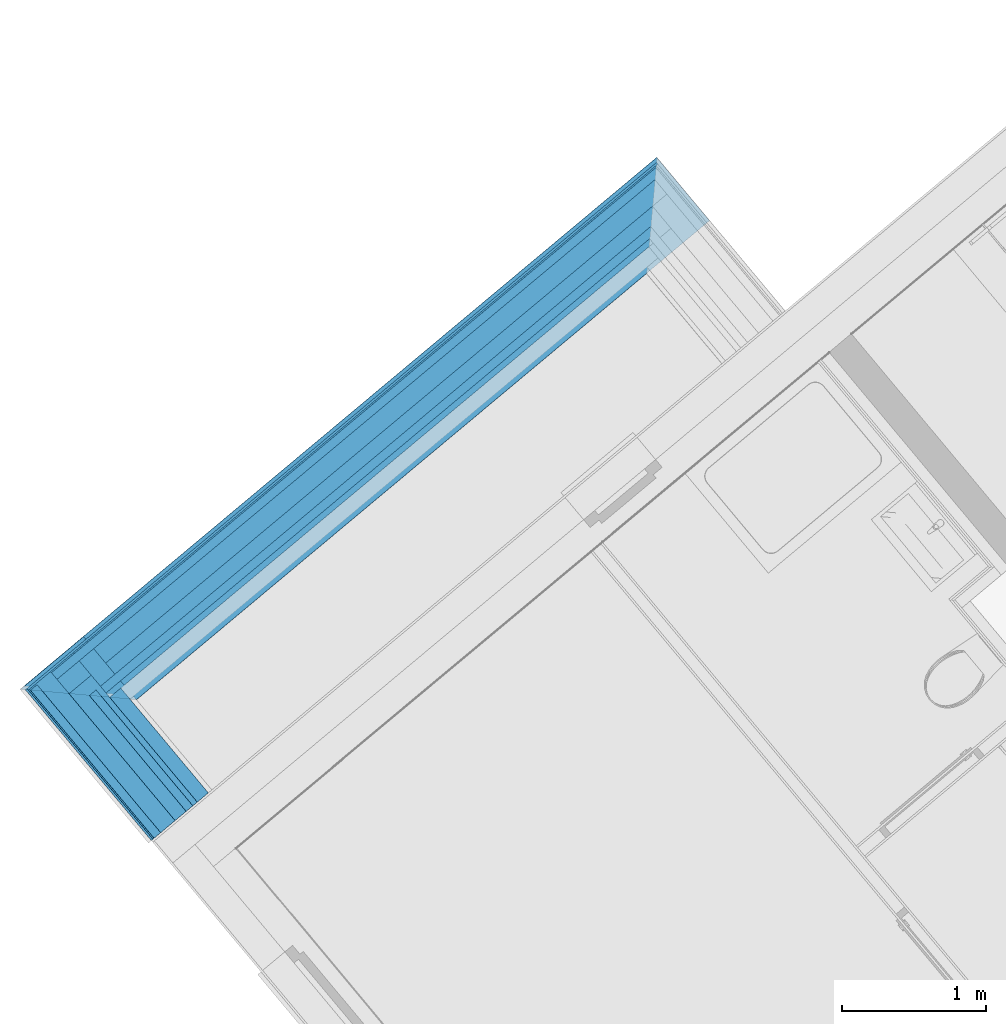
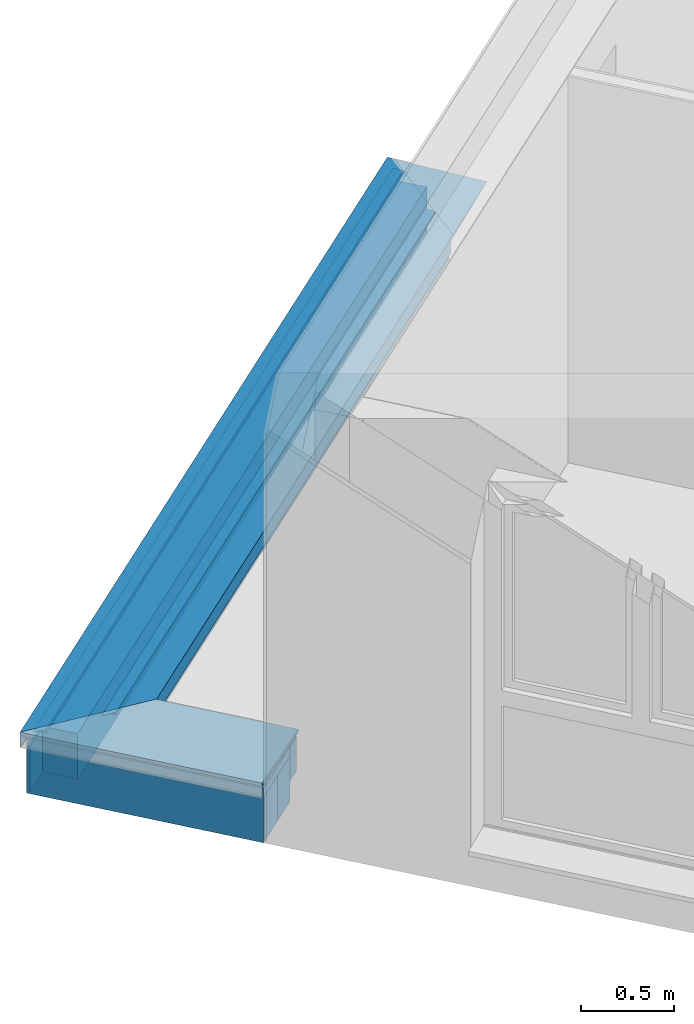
# One storey, part 25 of 61: 15 building element parts, 2 elements without a shape of their own.
"""IFC4 building model written with IfcOpenShell, lengths in metres."""

from ifc_helpers import new_model, entity, si_unit, converted_unit, derived_unit, direction, frame, origin_with_axes, place, context, subcontext, project, spatial, polygons, material, type_object, element, aggregate, save


model = new_model("IFC4")

# Units and contexts
model_context = context("Model", 3, precision=1e-05, world=origin_with_axes(), true_north=direction((0.0, 1.0)))
body_context = subcontext(model_context, "Body", "Model", "MODEL_VIEW")
ifc_project = project(units=[si_unit("LENGTHUNIT", "METRE"), si_unit("AREAUNIT", "SQUARE_METRE"), si_unit("VOLUMEUNIT", "CUBIC_METRE"), converted_unit("PLANEANGLEUNIT", "DEGREE", entity("IfcPlaneAngleMeasure", 0.0174532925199), si_unit("PLANEANGLEUNIT", "RADIAN"), dimensions=[0, 0, 0, 0, 0, 0, 0]), converted_unit("TIMEUNIT", "Year", entity("IfcTimeMeasure", 31556926.0), si_unit("TIMEUNIT", "SECOND"), dimensions=[0, 0, 1, 0, 0, 0, 0]), si_unit("MASSUNIT", "GRAM", prefix="KILO"), si_unit("THERMODYNAMICTEMPERATUREUNIT", "DEGREE_CELSIUS"), si_unit("LUMINOUSINTENSITYUNIT", "LUMEN"), si_unit("ENERGYUNIT", "JOULE", prefix="MEGA"), derived_unit("THERMALCONDUCTANCEUNIT", [(si_unit("POWERUNIT", "WATT"), 1), (si_unit("LENGTHUNIT", "METRE"), -1), (si_unit("THERMODYNAMICTEMPERATUREUNIT", "KELVIN"), -1)]), derived_unit("SPECIFICHEATCAPACITYUNIT", [(si_unit("ENERGYUNIT", "JOULE"), 1), (si_unit("MASSUNIT", "GRAM", prefix="KILO"), -1), (si_unit("THERMODYNAMICTEMPERATUREUNIT", "KELVIN"), -1)]), derived_unit("MASSDENSITYUNIT", [(si_unit("MASSUNIT", "GRAM", prefix="KILO"), 1), (si_unit("VOLUMEUNIT", "CUBIC_METRE"), -1)])], contexts=[model_context])

# Site, building, storey
site_placement = place(None, frame((-0.00153261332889, -0.00661245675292, 0.0), z_axis=(0.0, 0.0, 1.0), x_axis=(1.0, 0.0, 0.0)))
site = spatial("IfcSite", under=ifc_project, at=site_placement, Name="Gelände", CompositionType="ELEMENT")
building_placement = place(site_placement, origin_with_axes())
building = spatial("IfcBuilding", under=site, at=building_placement, Name="Gebäude", CompositionType="ELEMENT")
storey_placement = place(building_placement, frame((0.0, 0.0, 5.7), z_axis=(0.0, 0.0, 1.0), x_axis=(1.0, 0.0, 0.0)))
storey = spatial("IfcBuildingStorey", under=building, at=storey_placement, Name="DG1", CompositionType="ELEMENT", Elevation=5.7)

# Wall, building element parts
wall_type = type_object("IfcWallType", Name="Bauteil - Attika Terrasse 1.DG 574 x 410", PredefinedType="NOTDEFINED")
wall_1_placement = place(storey_placement, frame((-9.25321199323, 20.0359436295, -0.2), z_axis=(0.0, 0.0, 1.0), x_axis=(0.641209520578, -0.767365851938, 0.0)))
wall_1 = element("IfcWall", 1, at=wall_1_placement, inside=storey, type_object=wall_type, Name="Wand-004", PredefinedType="NOTDEFINED")
ifc_material_1 = material(Name="Holzwerkstoff")
building_element_part_1_placement = place(wall_1_placement, origin_with_axes())
building_element_part_1 = element("IfcBuildingElementPart", 2, at=building_element_part_1_placement, material=ifc_material_1, Name="Holzwerkstoff", PredefinedType="NOTDEFINED", context=body_context, shape_type="Tessellation", body=[
    polygons([(-0.240000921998, -0.239999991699, 0.587852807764), (-0.189985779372, -0.189984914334, 0.586106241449), (1.14646030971, -0.189984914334, 0.586106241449), (1.14646030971, -0.239999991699, 0.587852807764), (-0.239998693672, 0.33069508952, 0.587852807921), (-0.18998374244, 0.330634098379, 0.58610624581), (-0.130125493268, -0.130124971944, 0.58401588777), (1.14646030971, -0.130124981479, 0.584015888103), (1.14646030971, 0.100000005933, 0.575979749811), (1.14646030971, 0.160110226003, 0.573880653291), (1.14646030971, 0.329999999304, 0.567947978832), (1.14646030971, 0.330698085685, 0.587938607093), (1.14646030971, -0.239276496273, 0.608570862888), (-0.239997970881, -0.239997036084, 0.587937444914), (-0.23927742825, -0.239276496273, 0.608570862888), (-0.239995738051, 0.330698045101, 0.587937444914), (0.330001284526, 0.329999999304, 0.567947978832), (0.160111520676, 0.330207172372, 0.573880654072), (0.100001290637, 0.330280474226, 0.575979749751), (-0.130123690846, 0.33056110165, 0.58401588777), (0.100000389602, 0.100000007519, 0.575979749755), (0.16011085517, 0.160110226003, 0.573880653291)], [[[1, 2, 3, 4]], [[2, 1, 5, 6]], [[2, 7, 8, 3]], [[8, 9, 10, 11, 12, 13, 4, 3]], [[14, 1, 4, 13, 15]], [[1, 14, 16, 5]], [[17, 18, 19, 20, 6, 5, 16, 12, 11]], [[7, 2, 6, 20]], [[7, 21, 9, 8]], [[21, 22, 10, 9]], [[22, 17, 11, 10]], [[16, 15, 13, 12]], [[14, 15, 16]], [[18, 17, 22]], [[22, 21, 19, 18]], [[21, 7, 20, 19]]], closed=True),
])
ifc_material_2 = material(Name="EPS 1")
building_element_part_2_placement = place(wall_1_placement, origin_with_axes())
building_element_part_2 = element("IfcBuildingElementPart", 3, at=building_element_part_2_placement, material=ifc_material_2, Name="EPS 1", PredefinedType="NOTDEFINED", context=body_context, shape_type="Tessellation", body=[
    polygons([(0.200001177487, 0.3, 0.519224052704), (0.200001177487, 0.3, 0.559999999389), (1.14646030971, 0.3, 0.560000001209), (1.14646030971, 0.3, 0.335), (0.200001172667, 0.3, 0.335), (0.200001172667, 0.3, 0.488695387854), (0.200001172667, 0.3, 0.49100648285), (0.200001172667, 0.3, 0.498822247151), (0.200001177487, 0.3, 0.500000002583), (0.200001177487, 0.3, 0.50905023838), (0.200001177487, 0.3, 0.511361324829), (0.200000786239, 0.2, 0.559999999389), (0.200000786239, 0.2, 0.519224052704), (1.14646030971, 0.2, 0.560000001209), (1.14646030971, 0.2, 0.335), (0.20000078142, 0.2, 0.335), (0.20000078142, 0.2, 0.488695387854), (0.20000078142, 0.2, 0.49100648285), (0.20000078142, 0.2, 0.498822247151), (0.200000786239, 0.2, 0.500000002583), (0.200000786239, 0.2, 0.50905023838), (0.200000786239, 0.2, 0.511361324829)], [[[1, 2, 3, 4, 5, 6, 7, 8, 9, 10, 11]], [[12, 2, 1, 13]], [[2, 12, 14, 3]], [[15, 4, 3, 14]], [[16, 5, 4, 15]], [[17, 6, 5, 16]], [[18, 7, 6, 17]], [[19, 8, 7, 18]], [[20, 9, 8, 19]], [[21, 10, 9, 20]], [[22, 11, 10, 21]], [[13, 1, 11, 22]], [[12, 13, 22, 21, 20, 19, 18, 17, 16, 15, 14]]], closed=True),
])
ifc_material_3 = material(Name="Vollholz")
building_element_part_3_placement = place(wall_1_placement, origin_with_axes())
building_element_part_3 = element("IfcBuildingElementPart", 4, at=building_element_part_3_placement, material=ifc_material_3, Name="Vollholz", PredefinedType="NOTDEFINED", context=body_context, shape_type="Tessellation", body=[
    polygons([(0.10000038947, 0.1, 0.573880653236), (0.10000062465, 0.160110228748, 0.573880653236), (0.100000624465, 0.160063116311, 0.567947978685), (0.10000038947, 0.1, 0.567947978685), (0.10000038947, 0.1, 0.575979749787), (1.14646030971, 0.160110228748, 0.573880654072), (1.14646030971, 0.16, 0.560000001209), (0.100000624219, 0.16, 0.559999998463), (0.10000038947, 0.1, 0.559999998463), (1.14646030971, 0.1, 0.560000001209), (1.14646030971, 0.1, 0.575979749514)], [[[1, 2, 3, 4]], [[5, 2, 1]], [[3, 2, 6, 7, 8]], [[4, 3, 8, 9]], [[5, 1, 4, 9, 10, 11]], [[2, 5, 11, 6]], [[7, 6, 11, 10]], [[9, 8, 7, 10]]], closed=True),
])
ifc_material_4 = material(Name="Stahlbeton")
building_element_part_4_placement = place(wall_1_placement, origin_with_axes())
building_element_part_4 = element("IfcBuildingElementPart", 5, at=building_element_part_4_placement, material=ifc_material_4, Name="Stahlbeton", PredefinedType="NOTDEFINED", context=body_context, shape_type="Tessellation", body=[
    polygons([(7.82254769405e-07, 0.199999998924, 0.498822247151), (7.82254769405e-07, 0.199999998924, 0.499999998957), (1.14646030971, 0.199999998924, 0.500000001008), (1.14646030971, 0.199999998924, 0.335000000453), (7.82254769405e-07, 0.199999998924, 0.335), (7.82254769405e-07, 0.199999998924, 0.488695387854), (7.82254769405e-07, 0.199999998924, 0.49100648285), (-2.39900543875e-10, 1.82835524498e-09, 0.499999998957), (-2.39900543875e-10, 1.82835524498e-09, 0.498822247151), (1.14646030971, 1.82835346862e-09, 0.500000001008), (1.14646030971, 0.199999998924, 0.2), (1.14646030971, 1.82835346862e-09, 0.2), (7.82254772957e-07, 0.199999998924, 0.2), (-2.39900543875e-10, 1.82835524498e-09, 0.488695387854), (-2.39900543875e-10, 1.82835524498e-09, 0.335), (-2.39900543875e-10, 1.82835524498e-09, 0.49100648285), (-2.39900543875e-10, 1.82835524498e-09, 0.2)], [[[1, 2, 3, 4, 5, 6, 7]], [[8, 2, 1, 9]], [[2, 8, 10, 3]], [[11, 4, 3, 10, 12]], [[13, 5, 4, 11]], [[14, 6, 5, 15]], [[16, 7, 6, 14]], [[9, 1, 7, 16]], [[8, 9, 16, 14, 15, 17, 12, 10]], [[17, 13, 11, 12]], [[15, 5, 13, 17]]], closed=True),
])
building_element_part_5_placement = place(wall_1_placement, origin_with_axes())
building_element_part_5 = element("IfcBuildingElementPart", 6, at=building_element_part_5_placement, material=ifc_material_2, Name="EPS 1", PredefinedType="NOTDEFINED", context=body_context, shape_type="Tessellation", body=[
    polygons([(-0.199999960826, -2.39910313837e-10, 0.498822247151), (-0.199999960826, -2.39910313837e-10, 0.499999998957), (1.14646030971, -2.39910313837e-10, 0.499999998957), (1.14646030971, -2.39910313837e-10, 0.2), (-0.199999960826, -2.39910313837e-10, 0.2), (-0.199999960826, -2.39910313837e-10, 0.335), (-0.199999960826, -2.39910313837e-10, 0.488695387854), (-0.199999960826, -2.39910313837e-10, 0.49100648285), (-0.200000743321, -0.19999996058, 0.499999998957), (-0.200000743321, -0.19999996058, 0.498822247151), (1.14646030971, -0.19999996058, 0.499999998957), (1.14646030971, -0.19999996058, 0.2), (-0.200000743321, -0.19999996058, 0.2), (-0.200000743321, -0.19999996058, 0.335), (-0.200000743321, -0.19999996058, 0.488695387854), (-0.200000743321, -0.19999996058, 0.49100648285)], [[[1, 2, 3, 4, 5, 6, 7, 8]], [[9, 2, 1, 10]], [[2, 9, 11, 3]], [[12, 4, 3, 11]], [[13, 5, 4, 12]], [[14, 6, 5, 13]], [[15, 7, 6, 14]], [[16, 8, 7, 15]], [[10, 1, 8, 16]], [[9, 10, 16, 15, 14, 13, 12, 11]]], closed=True),
])
building_element_part_6_placement = place(wall_1_placement, origin_with_axes())
building_element_part_6 = element("IfcBuildingElementPart", 7, at=building_element_part_6_placement, material=ifc_material_3, Name="Vollholz", PredefinedType="NOTDEFINED", context=body_context, shape_type="Tessellation", body=[
    polygons([(-0.189996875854, -0.189996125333, 0.584015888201), (-0.18999664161, -0.130124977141, 0.584015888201), (-0.190039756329, -0.130124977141, 0.575979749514), (-0.190039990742, -0.190039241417, 0.575979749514), (-0.189985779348, -0.189984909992, 0.58610624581), (1.14646030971, -0.130124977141, 0.584015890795), (1.14646030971, -0.130124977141, 0.560000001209), (-0.190125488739, -0.130124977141, 0.559999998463), (-0.190082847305, -0.130124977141, 0.567947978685), (-0.190051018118, -0.130124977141, 0.573880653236), (-0.190051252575, -0.190050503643, 0.573880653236), (-0.190083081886, -0.190082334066, 0.567947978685), (-0.190125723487, -0.190124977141, 0.559999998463), (1.14646030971, -0.190124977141, 0.560000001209), (1.14646030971, -0.189984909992, 0.586106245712)], [[[1, 2, 3, 4]], [[5, 2, 1]], [[3, 2, 6, 7, 8, 9, 10]], [[4, 3, 10, 11]], [[5, 1, 4, 11, 12, 13, 14, 15]], [[2, 5, 15, 6]], [[7, 6, 15, 14]], [[13, 8, 7, 14]], [[12, 9, 8, 13]], [[11, 10, 9, 12]]], closed=True),
])
ifc_material_5 = material(Name="Zementputz")
building_element_part_7_placement = place(wall_1_placement, origin_with_axes())
building_element_part_7 = element("IfcBuildingElementPart", 8, at=building_element_part_7_placement, material=ifc_material_5, Name="Zementputz", PredefinedType="NOTDEFINED", context=body_context, shape_type="Tessellation", body=[
    polygons([(-0.215000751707, -0.199999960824, 0.2), (-0.215000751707, -0.199999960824, 0.499999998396), (1.14646030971, -0.199999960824, 0.499999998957), (1.14646030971, -0.199999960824, 0.2), (-0.215000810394, -0.214999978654, 0.2), (-0.215000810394, -0.214999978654, 0.499999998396), (1.14646030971, -0.214999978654, 0.499999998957), (1.14646030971, -0.214999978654, 0.2)], [[[1, 2, 3, 4]], [[2, 1, 5, 6]], [[2, 6, 7, 3]], [[8, 4, 3, 7]], [[5, 1, 4, 8]], [[6, 5, 8, 7]]], closed=True),
])
ifc_material_6 = material(Name="Brettschichtholz")
building_element_part_8_placement = place(wall_1_placement, origin_with_axes())
building_element_part_8 = element("IfcBuildingElementPart", 9, at=building_element_part_8_placement, material=ifc_material_6, Name="Brettschichtholz", PredefinedType="NOTDEFINED", context=body_context, shape_type="Tessellation", body=[
    polygons([(-0.214999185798, 0.200000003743, 0.519224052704), (-0.214999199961, 0.200000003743, 0.559999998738), (1.14646030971, 0.200000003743, 0.559999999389), (1.14646030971, 0.200000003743, 0.500000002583), (-0.214999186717, 0.200000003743, 0.499999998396), (-0.214999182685, 0.200000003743, 0.50905023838), (-0.21499918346, 0.200000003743, 0.511361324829), (-0.21499935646, 0.159999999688, 0.559999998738), (-0.215000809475, -0.214999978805, 0.519224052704), (-0.215000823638, -0.214999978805, 0.559999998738), (-0.215000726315, -0.190124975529, 0.559999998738), (-0.215000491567, -0.130124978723, 0.559999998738), (-0.214999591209, 0.100000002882, 0.559999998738), (1.14646030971, 0.159999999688, 0.559999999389), (1.14646030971, 0.100000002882, 0.559999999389), (1.14646030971, -0.130124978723, 0.559999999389), (1.14646030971, -0.190124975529, 0.559999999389), (1.14646030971, -0.214999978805, 0.559999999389), (1.14646030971, -0.214999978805, 0.499999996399), (-0.215000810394, -0.214999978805, 0.499999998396), (-0.215000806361, -0.214999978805, 0.50905023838), (-0.215000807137, -0.214999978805, 0.511361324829)], [[[1, 2, 3, 4, 5, 6, 7]], [[8, 2, 1, 9, 10, 11, 12, 13]], [[2, 8, 14, 3]], [[15, 16, 17, 18, 19, 4, 3, 14]], [[19, 20, 5, 4]], [[21, 6, 5, 20]], [[22, 7, 6, 21]], [[9, 1, 7, 22]], [[10, 9, 22, 21, 20, 19, 18]], [[11, 10, 18, 17]], [[12, 11, 17, 16]], [[13, 12, 16, 15]], [[8, 13, 15, 14]]], closed=True),
])
aggregate(wall_1, [building_element_part_1, building_element_part_2, building_element_part_3, building_element_part_4, building_element_part_5, building_element_part_6, building_element_part_7, building_element_part_8])

wall_2_placement = place(storey_placement, frame((-9.25321199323, 20.0359436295, -0.2), z_axis=(0.0, 0.0, 1.0), x_axis=(0.767368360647, 0.641206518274, 0.0)))
wall_2 = element("IfcWall", 10, at=wall_2_placement, inside=storey, type_object=wall_type, Name="Wand-004", PredefinedType="NOTDEFINED")
building_element_part_9_placement = place(wall_2_placement, origin_with_axes())
building_element_part_9 = element("IfcBuildingElementPart", 11, at=building_element_part_9_placement, material=ifc_material_5, Name="Zementputz", PredefinedType="NOTDEFINED", context=body_context, shape_type="Tessellation", body=[
    polygons([(-0.200000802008, 0.214999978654, 0.499999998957), (-0.200000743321, 0.199999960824, 0.499999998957), (5.48474512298, 0.199999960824, 0.499999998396), (5.48474506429, 0.214999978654, 0.499999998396), (-0.200000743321, 0.199999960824, 0.498822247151), (-0.200000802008, 0.214999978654, 0.498822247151), (-0.200000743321, 0.199999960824, 0.49100648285), (-0.200000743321, 0.199999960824, 0.488695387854), (-0.200000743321, 0.199999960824, 0.335), (-0.200000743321, 0.199999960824, 0.2), (5.48474512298, 0.199999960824, 0.2), (5.48474506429, 0.214999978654, 0.2), (-0.200000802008, 0.214999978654, 0.2), (-0.200000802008, 0.214999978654, 0.335), (-0.200000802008, 0.214999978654, 0.488695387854), (-0.200000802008, 0.214999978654, 0.49100648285)], [[[1, 2, 3, 4]], [[5, 2, 1, 6]], [[2, 5, 7, 8, 9, 10, 11, 3]], [[4, 3, 11, 12]], [[6, 1, 4, 12, 13, 14, 15, 16]], [[5, 6, 16, 7]], [[7, 16, 15, 8]], [[8, 15, 14, 9]], [[9, 14, 13, 10]], [[10, 13, 12, 11]]], closed=True),
])
building_element_part_10_placement = place(wall_2_placement, origin_with_axes())
building_element_part_10 = element("IfcBuildingElementPart", 12, at=building_element_part_10_placement, material=ifc_material_3, Name="Vollholz", PredefinedType="NOTDEFINED", context=body_context, shape_type="Tessellation", body=[
    polygons([(5.45974132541, 0.189996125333, 0.584015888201), (5.45974155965, 0.130124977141, 0.584015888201), (5.45978467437, 0.130124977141, 0.575979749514), (5.45978443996, 0.190039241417, 0.575979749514), (5.45973022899, 0.189984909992, 0.58610624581), (-0.130125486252, 0.130124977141, 0.584015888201), (-0.130125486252, 0.130124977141, 0.575979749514), (-0.130125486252, 0.130124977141, 0.573880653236), (-0.130125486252, 0.130124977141, 0.567947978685), (-0.130125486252, 0.130124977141, 0.560000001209), (5.45987040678, 0.130124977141, 0.559999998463), (5.45982776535, 0.130124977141, 0.567947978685), (5.45979593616, 0.130124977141, 0.573880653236), (5.4597957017, 0.190050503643, 0.573880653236), (5.45982753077, 0.190082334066, 0.567947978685), (5.45987017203, 0.190124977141, 0.559999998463), (-0.130125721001, 0.190124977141, 0.560000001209), (-0.130125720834, 0.190082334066, 0.567947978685), (-0.130125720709, 0.190050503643, 0.573880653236), (-0.130125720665, 0.190039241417, 0.575979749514), (-0.130125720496, 0.189996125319, 0.584015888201), (-0.189985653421, 0.189984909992, 0.586106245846)], [[[1, 2, 3, 4]], [[5, 2, 1]], [[3, 2, 6, 7, 8, 9, 10, 11, 12, 13]], [[4, 3, 13, 14]], [[5, 1, 4, 14, 15, 16, 17, 18, 19, 20, 21, 22]], [[2, 5, 22, 6]], [[6, 21, 20, 7]], [[7, 20, 19, 8]], [[8, 19, 18, 9]], [[9, 18, 17, 10]], [[16, 11, 10, 17]], [[15, 12, 11, 16]], [[14, 13, 12, 15]], [[21, 6, 22]]], closed=True),
])
building_element_part_11_placement = place(wall_2_placement, origin_with_axes())
building_element_part_11 = element("IfcBuildingElementPart", 13, at=building_element_part_11_placement, material=ifc_material_2, Name="EPS 1", PredefinedType="NOTDEFINED", context=body_context, shape_type="Tessellation", body=[
    polygons([(5.46974589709, 2.39911202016e-10, 0.498822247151), (5.46974589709, 2.39911202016e-10, 0.499999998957), (-2.3990853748e-10, 2.39907649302e-10, 0.499999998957), (-2.39910313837e-10, 2.39907649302e-10, 0.498822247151), (-2.39910313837e-10, 2.39907649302e-10, 0.49100648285), (-2.39910313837e-10, 2.39907649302e-10, 0.488695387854), (-2.39910313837e-10, 2.39907649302e-10, 0.335), (-2.39910313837e-10, 2.39907649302e-10, 0.2), (5.46974589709, 2.39911202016e-10, 0.2), (5.46974589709, 2.39911202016e-10, 0.335), (5.46974589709, 2.39911202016e-10, 0.488695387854), (5.46974589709, 2.39911202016e-10, 0.49100648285), (5.4697451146, 0.19999996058, 0.499999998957), (5.4697451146, 0.19999996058, 0.498822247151), (-7.82734434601e-07, 0.19999996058, 0.499999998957), (-7.82734435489e-07, 0.19999996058, 0.498822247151), (-7.82734435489e-07, 0.19999996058, 0.49100648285), (-7.82734435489e-07, 0.19999996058, 0.488695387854), (-7.82734435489e-07, 0.19999996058, 0.335), (-7.82734435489e-07, 0.19999996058, 0.2), (5.4697451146, 0.19999996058, 0.2), (5.4697451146, 0.19999996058, 0.335), (5.4697451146, 0.19999996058, 0.488695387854), (5.4697451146, 0.19999996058, 0.49100648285)], [[[1, 2, 3, 4, 5, 6, 7, 8, 9, 10, 11, 12]], [[13, 2, 1, 14]], [[2, 13, 15, 3]], [[4, 3, 15, 16]], [[4, 16, 17, 5]], [[5, 17, 18, 6]], [[6, 18, 19, 7]], [[7, 19, 20, 8]], [[21, 9, 8, 20]], [[22, 10, 9, 21]], [[23, 11, 10, 22]], [[24, 12, 11, 23]], [[14, 1, 12, 24]], [[13, 14, 24, 23, 22, 21, 20, 19, 18, 17, 16, 15]]], closed=True),
])
building_element_part_12_placement = place(wall_2_placement, origin_with_axes())
building_element_part_12 = element("IfcBuildingElementPart", 14, at=building_element_part_12_placement, material=ifc_material_4, Name="Stahlbeton", PredefinedType="NOTDEFINED", context=body_context, shape_type="Tessellation", body=[
    polygons([(5.269746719, -0.199999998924, 0.498822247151), (5.269746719, -0.199999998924, 0.499999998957), (0.20000078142, -0.199999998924, 0.500000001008), (0.20000078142, -0.199999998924, 0.498822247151), (0.20000078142, -0.199999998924, 0.49100648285), (0.20000078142, -0.199999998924, 0.488695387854), (0.20000078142, -0.199999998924, 0.335), (5.269746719, -0.199999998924, 0.335), (5.269746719, -0.199999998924, 0.488695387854), (5.269746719, -0.199999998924, 0.49100648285), (5.2697459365, -1.82835790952e-09, 0.499999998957), (5.2697459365, -1.82835790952e-09, 0.498822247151), (0.199999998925, -1.82835790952e-09, 0.500000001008), (0.199999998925, -1.82835790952e-09, 0.498822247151), (0.199999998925, -1.82835790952e-09, 0.49100648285), (0.199999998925, -1.82835790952e-09, 0.488695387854), (0.199999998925, -1.82835790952e-09, 0.335), (5.269746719, -0.199999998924, 0.2), (0.20000078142, -0.199999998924, 0.2), (5.2697459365, -1.82835790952e-09, 0.488695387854), (5.2697459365, -1.82835790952e-09, 0.335), (5.2697459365, -1.82835790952e-09, 0.49100648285), (5.2697459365, -1.82835790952e-09, 0.2), (0.199999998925, -1.82835790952e-09, 0.2)], [[[1, 2, 3, 4, 5, 6, 7, 8, 9, 10]], [[11, 2, 1, 12]], [[2, 11, 13, 3]], [[4, 3, 13, 14]], [[4, 14, 15, 5]], [[5, 15, 16, 6]], [[6, 16, 17, 7]], [[18, 8, 7, 19]], [[20, 9, 8, 21]], [[22, 10, 9, 20]], [[12, 1, 10, 22]], [[11, 12, 22, 20, 21, 23, 24, 17, 16, 15, 14, 13]], [[7, 17, 24, 19]], [[21, 8, 18, 23]], [[23, 18, 19, 24]]], closed=True),
])
building_element_part_13_placement = place(wall_2_placement, origin_with_axes())
building_element_part_13 = element("IfcBuildingElementPart", 15, at=building_element_part_13_placement, material=ifc_material_3, Name="Vollholz", PredefinedType="NOTDEFINED", context=body_context, shape_type="Tessellation", body=[
    polygons([(5.16974632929, -0.1, 0.573880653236), (5.16974656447, -0.160110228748, 0.573880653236), (5.16974656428, -0.160063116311, 0.567947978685), (5.16974632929, -0.1, 0.567947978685), (5.16974632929, -0.1, 0.575979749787), (0.160110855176, -0.160110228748, 0.573880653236), (0.160063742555, -0.160063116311, 0.567947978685), (0.160000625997, -0.16, 0.560000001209), (5.16974656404, -0.16, 0.559999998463), (5.16974632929, -0.1, 0.559999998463), (0.160000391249, -0.1, 0.560000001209), (0.16006350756, -0.1, 0.567947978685), (0.160110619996, -0.1, 0.573880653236), (0.100000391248, -0.1, 0.575979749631)], [[[1, 2, 3, 4]], [[5, 2, 1]], [[3, 2, 6, 7, 8, 9]], [[4, 3, 9, 10]], [[5, 1, 4, 10, 11, 12, 13, 14]], [[2, 5, 14, 6]], [[6, 13, 12, 7]], [[7, 12, 11, 8]], [[10, 9, 8, 11]], [[13, 6, 14]]], closed=True),
])
building_element_part_14_placement = place(wall_2_placement, origin_with_axes())
building_element_part_14 = element("IfcBuildingElementPart", 16, at=building_element_part_14_placement, material=ifc_material_1, Name="Holzwerkstoff", PredefinedType="NOTDEFINED", context=body_context, shape_type="Tessellation", body=[
    polygons([(0.330207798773, -0.160110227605, 0.573880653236), (0.330001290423, -0.329999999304, 0.567947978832), (0.330208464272, -0.330207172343, 0.573880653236), (5.10963631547, -0.160110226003, 0.573880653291), (4.93974723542, -0.329999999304, 0.567947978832), (0.330281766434, -0.330280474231, 0.57597974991), (5.10963700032, -0.330207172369, 0.573880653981), (5.16974722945, -0.330280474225, 0.575979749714), (5.39987221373, -0.33056110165, 0.58401588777), (5.45973213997, -0.33063409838, 0.586106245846), (5.50974721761, -0.33069508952, 0.587852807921), (5.50974426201, -0.330698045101, 0.587937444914), (0.330699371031, -0.330698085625, 0.587938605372), (0.330635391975, -0.330634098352, 0.586106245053), (0.330562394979, -0.330561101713, 0.584015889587), (0.330280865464, -0.100000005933, 0.575979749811), (5.16974632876, -0.100000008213, 0.575979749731), (5.39987041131, 0.130124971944, 0.58401588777), (5.45972997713, 0.189984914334, 0.586106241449), (5.50974498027, 0.239999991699, 0.587852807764), (5.50974202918, 0.239997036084, 0.587937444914), (-0.239277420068, 0.239276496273, 0.608570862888), (5.50902149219, 0.239276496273, 0.608570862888), (0.330697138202, 0.23999699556, 0.587938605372), (0.330694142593, 0.239999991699, 0.587852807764), (0.330633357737, 0.189985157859, 0.586106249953), (0.330560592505, 0.130124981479, 0.584015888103)], [[[1, 2, 3]], [[2, 1, 4, 5]], [[6, 3, 2, 5, 7, 8, 9, 10, 11, 12, 13, 14, 15]], [[3, 6, 16, 1]], [[1, 16, 17, 4]], [[5, 4, 7]], [[7, 4, 17, 8]], [[8, 17, 18, 9]], [[18, 19, 10, 9]], [[19, 20, 11, 10]], [[20, 21, 12, 11]], [[22, 13, 12, 23]], [[14, 13, 24, 25, 26]], [[15, 14, 26, 27]], [[16, 6, 15, 27]], [[16, 27, 18, 17]], [[27, 26, 19, 18]], [[26, 25, 20, 19]], [[25, 24, 22, 23, 21, 20]], [[21, 23, 12]], [[13, 22, 24]]], closed=True),
])
ifc_material_7 = material(Name="Stahl")
building_element_part_15_placement = place(wall_2_placement, origin_with_axes())
building_element_part_15 = element("IfcBuildingElementPart", 17, at=building_element_part_15_placement, material=ifc_material_7, Name="Stahl", PredefinedType="NOTDEFINED", context=body_context, shape_type="Tessellation", body=[
    polygons([(-0.238232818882, 0.238231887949, 0.51136132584), (-0.231374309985, 0.231373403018, 0.518219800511), (-0.231374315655, 0.233287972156, 0.518219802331), (-0.238232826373, 0.240146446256, 0.511361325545), (-0.240543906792, 0.240542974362, 0.50905023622), (5.51028796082, 0.240542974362, 0.50905023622), (5.51124525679, 0.239585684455, 0.510007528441), (5.51124525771, 0.238231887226, 0.511361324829), (5.50989145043, 0.23823188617, 0.511361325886), (5.50303300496, 0.231373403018, 0.518219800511), (-0.232284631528, 0.232283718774, 0.519224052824), (5.50202875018, 0.232283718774, 0.519224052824), (5.50989144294, 0.240146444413, 0.511361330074), (-0.23823283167, 0.241500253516, 0.511361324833), (-0.239586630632, 0.241500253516, 0.510007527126), (5.5112452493, 0.241500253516, 0.510007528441), (5.5112452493, 0.241500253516, 0.610006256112), (5.5112453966, 0.202730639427, 0.608602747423), (5.51124525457, 0.240152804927, 0.608602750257), (5.51124525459, 0.240146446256, 0.51136132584), (-0.240147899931, 0.240146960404, 0.519224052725), (-0.240147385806, 0.240146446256, 0.51136132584), (5.50989780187, 0.240152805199, 0.608602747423), (-0.202731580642, 0.240152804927, 0.608602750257), (-0.240153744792, 0.240152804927, 0.608602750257), (-0.240153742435, 0.240152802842, 0.608570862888), (-0.240152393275, 0.240151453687, 0.587938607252), (-0.240152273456, 0.240151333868, 0.586106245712), (-0.240152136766, 0.240151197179, 0.584015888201), (-0.240151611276, 0.240150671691, 0.575979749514), (-0.240151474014, 0.24015053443, 0.573880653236), (-0.240151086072, 0.240150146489, 0.567947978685), (-0.240150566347, 0.240149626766, 0.559999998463), (-0.240147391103, 0.241500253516, 0.511361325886), (-0.240147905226, 0.241500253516, 0.519224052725), (-0.240150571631, 0.241500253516, 0.559999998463), (-0.240151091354, 0.241500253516, 0.567947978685), (-0.240151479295, 0.241500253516, 0.573880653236), (-0.240151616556, 0.241500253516, 0.575979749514), (-0.240152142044, 0.241500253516, 0.584015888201), (-0.240152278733, 0.241500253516, 0.586106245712), (-0.240152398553, 0.241500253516, 0.587938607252), (-0.240153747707, 0.241500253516, 0.608570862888), (-0.240153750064, 0.241500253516, 0.608602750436), (-0.202731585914, 0.241500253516, 0.608602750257), (-0.241501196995, 0.241500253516, 0.610006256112), (-0.202731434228, 0.202730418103, 0.608602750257), (-0.201850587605, 0.201849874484, 0.608570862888), (0.332053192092, -0.332051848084, 0.589243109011), (4.97508643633, -0.332051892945, 0.589243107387), (5.5090216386, 0.201849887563, 0.608570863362), (5.50989794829, 0.202730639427, 0.608602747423), (-0.201850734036, 0.239276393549, 0.608570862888), (5.50902149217, 0.239276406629, 0.608570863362), (0.332053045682, -0.294630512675, 0.589243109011), (0.332053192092, -0.332051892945, 0.49100648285), (0.332053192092, -0.332051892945, 0.489652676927), (4.93960992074, -0.332051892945, 0.489652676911), (4.94096372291, -0.332051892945, 0.49100648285), (4.93904914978, -0.332051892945, 0.491006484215), (4.93904915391, -0.332051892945, 0.498822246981), (4.93904915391, -0.332051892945, 0.499999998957), (4.93904915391, -0.332051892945, 0.50905023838), (4.93904915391, -0.332051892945, 0.511361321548), (4.93904915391, -0.332051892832, 0.519224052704), (4.93904915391, -0.332051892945, 0.559999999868), (4.93904915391, -0.332051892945, 0.567947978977), (4.93904915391, -0.332051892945, 0.573880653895), (4.93904915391, -0.332051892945, 0.575979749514), (4.93904915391, -0.332051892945, 0.584015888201), (4.93904915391, -0.332051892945, 0.586106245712), (4.93904914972, -0.332051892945, 0.587938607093), (0.332053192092, -0.332051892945, 0.587938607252), (0.332053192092, -0.332051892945, 0.586106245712), (0.332053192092, -0.332051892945, 0.584015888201), (0.332053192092, -0.332051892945, 0.575979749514), (0.332053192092, -0.332051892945, 0.573880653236), (0.332053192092, -0.332051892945, 0.567947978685), (0.332053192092, -0.332051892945, 0.559999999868), (0.332053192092, -0.332051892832, 0.519224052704), (0.332053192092, -0.332051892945, 0.511361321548), (0.332053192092, -0.332051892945, 0.50905023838), (0.332053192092, -0.332051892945, 0.499999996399), (0.332053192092, -0.332051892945, 0.498822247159), (4.93904918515, -0.330698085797, 0.587937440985), (4.9390491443, -0.330665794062, 0.587938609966), (0.332053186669, -0.330665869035, 0.587938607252), (0.332053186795, -0.330698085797, 0.587937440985), (0.332053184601, -0.330137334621, 0.489652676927), (0.332053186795, -0.330698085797, 0.49100648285), (0.332053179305, -0.328783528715, 0.491006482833), (0.331095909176, -0.331094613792, 0.488695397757), (4.9386526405, -0.331094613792, 0.488695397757), (4.94096371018, -0.328783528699, 0.49100648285), (4.94096371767, -0.330698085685, 0.491006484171), (4.93904914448, -0.330698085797, 0.491006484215), (4.93904914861, -0.330698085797, 0.498822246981), (4.93904914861, -0.330698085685, 0.499999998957), (4.93904914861, -0.330698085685, 0.50905023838), (4.93904914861, -0.330698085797, 0.511361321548), (4.93904914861, -0.330698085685, 0.519224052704), (4.93904914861, -0.330698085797, 0.559999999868), (4.93904914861, -0.330698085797, 0.567947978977), (4.93904914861, -0.330698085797, 0.573880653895), (4.93904914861, -0.330698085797, 0.575979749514), (4.93904914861, -0.330698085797, 0.584015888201), (4.93904914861, -0.330698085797, 0.586106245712), (0.332053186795, -0.330698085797, 0.586106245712), (0.332053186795, -0.330698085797, 0.584015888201), (0.332053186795, -0.330698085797, 0.575979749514), (0.332053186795, -0.330698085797, 0.573880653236), (0.332053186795, -0.330698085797, 0.567947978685), (0.332053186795, -0.330698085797, 0.559999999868), (0.332053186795, -0.330698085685, 0.519224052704), (0.332053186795, -0.330698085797, 0.511361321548), (0.332053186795, -0.330698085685, 0.50905023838), (0.332053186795, -0.330698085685, 0.499999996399), (0.332053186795, -0.330698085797, 0.498822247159), (0.33069937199, -0.328783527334, 0.491006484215), (0.33069937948, -0.330698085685, 0.491006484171), (0.323793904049, -0.321878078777, 0.497911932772), (4.94786911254, -0.321878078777, 0.497911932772), (4.94786912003, -0.323792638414, 0.497911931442), (4.94686486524, -0.32288233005, 0.498822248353), (0.32288359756, -0.32288233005, 0.498822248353)], [[[1, 2, 3, 4]], [[1, 5, 6, 7, 8, 9, 10, 2]], [[3, 2, 11]], [[3, 11, 12, 13, 4]], [[5, 1, 4, 14, 15]], [[5, 15, 16, 6]], [[6, 16, 7]], [[7, 16, 17, 18, 19, 20, 8]], [[9, 8, 20, 13]], [[10, 9, 13, 12]], [[11, 2, 10, 12]], [[21, 22, 4, 13, 20, 19, 23, 24, 25, 26, 27, 28, 29, 30, 31, 32, 33]], [[22, 34, 14, 4]], [[14, 34, 35, 36, 37, 38, 39, 40, 41, 42, 43, 44, 45, 46, 17, 16, 15]], [[46, 47, 48, 49, 50, 51, 52, 18, 17]], [[18, 52, 23, 19]], [[22, 21, 35, 34]], [[53, 24, 23, 54]], [[44, 25, 24, 45]], [[43, 26, 25, 44]], [[43, 42, 27, 26]], [[41, 28, 27, 42]], [[40, 29, 28, 41]], [[29, 40, 39, 30]], [[31, 30, 39, 38]], [[32, 31, 38, 37]], [[33, 32, 37, 36]], [[21, 33, 36, 35]], [[47, 46, 45, 24]], [[48, 47, 24, 53]], [[48, 53, 55, 49]], [[56, 57, 58, 59, 60, 61, 62, 63, 64, 65, 66, 67, 68, 69, 70, 71, 72, 50, 49, 73, 74, 75, 76, 77, 78, 79, 80, 81, 82, 83, 84]], [[85, 86, 54, 51, 50, 72]], [[51, 54, 23, 52]], [[87, 55, 53, 54, 86, 85, 88]], [[55, 87, 88, 73, 49]], [[89, 57, 56, 90, 91]], [[57, 92, 93, 58]], [[93, 94, 95, 59, 58]], [[96, 60, 59, 95]], [[96, 97, 61, 60]], [[98, 62, 61, 97]], [[62, 98, 99, 63]], [[63, 99, 100, 64]], [[64, 100, 101, 65]], [[101, 102, 66, 65]], [[102, 103, 67, 66]], [[103, 104, 68, 67]], [[68, 104, 105, 69]], [[69, 105, 106, 70]], [[106, 107, 71, 70]], [[107, 85, 72, 71]], [[74, 73, 88, 108]], [[75, 74, 108, 109]], [[76, 75, 109, 110]], [[111, 77, 76, 110]], [[111, 112, 78, 77]], [[112, 113, 79, 78]], [[79, 113, 114, 80]], [[115, 81, 80, 114]], [[116, 82, 81, 115]], [[116, 117, 83, 82]], [[118, 84, 83, 117]], [[118, 90, 56, 84]], [[90, 118, 117, 116, 115, 114, 113, 112, 111, 110, 109, 108, 88, 85, 107, 106, 105, 104, 103, 102, 101, 100, 99, 98, 97, 96]], [[89, 92, 57]], [[119, 91, 90, 120]], [[92, 89, 91, 119, 121, 122, 94, 93]], [[95, 94, 122, 123]], [[120, 90, 96, 95, 123, 124, 125]], [[119, 120, 125, 121]], [[121, 125, 124, 122]], [[123, 122, 124]]], closed=True),
])
aggregate(wall_2, [building_element_part_9, building_element_part_10, building_element_part_11, building_element_part_12, building_element_part_13, building_element_part_14, building_element_part_15])

save(model, "model.ifc")
